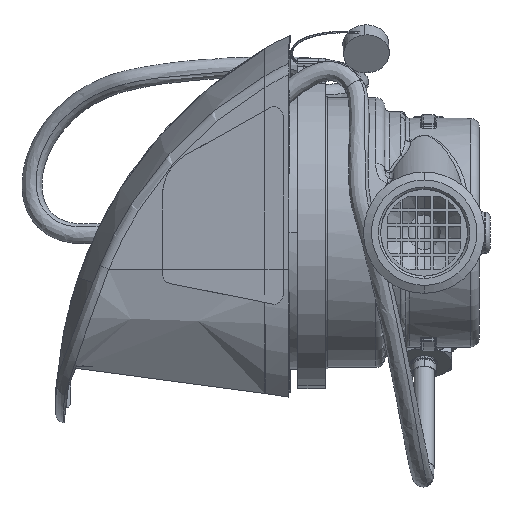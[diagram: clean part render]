
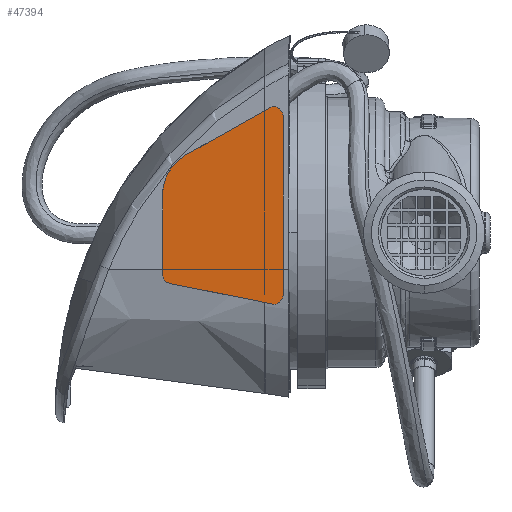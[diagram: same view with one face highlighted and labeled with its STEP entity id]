
A CAD part, left-side view. The second image highlights one B-rep face of the part: STEP entity #47394.
In plain terms, the highlighted planar face has unit normal (-0.995, 0.104, 0).
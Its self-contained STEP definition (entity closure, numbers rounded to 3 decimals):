
#1272 = ORIENTED_EDGE ( 'NONE', *, *, #8260, .T. ) ;
#2750 = VERTEX_POINT ( 'NONE', #102383 ) ;
#8260 = EDGE_CURVE ( 'NONE', #104310, #88742, #82116, .T. ) ;
#9892 = VECTOR ( 'NONE', #97397, 1000. ) ;
#9898 = EDGE_CURVE ( 'NONE', #2750, #104310, #32154, .T. ) ;
#10843 = DIRECTION ( 'NONE',  ( 0., 0., -1. ) ) ;
#10998 = CARTESIAN_POINT ( 'NONE',  ( -38.681, 45.245, 25.516 ) ) ;
#11545 = DIRECTION ( 'NONE',  ( 0.091, 0.868, -0.488 ) ) ;
#12533 = DIRECTION ( 'NONE',  ( -0.995, 0.105, 0. ) ) ;
#18060 = DIRECTION ( 'NONE',  ( 0., 0., 1. ) ) ;
#18153 = VERTEX_POINT ( 'NONE', #35268 ) ;
#23352 = CARTESIAN_POINT ( 'NONE',  ( -36.45, 66.48, 16.988 ) ) ;
#30218 = CARTESIAN_POINT ( 'NONE',  ( -38.681, 45.245, -13.633 ) ) ;
#31233 = ORIENTED_EDGE ( 'NONE', *, *, #101580, .T. ) ;
#32154 = CIRCLE ( 'NONE', #165816, 2. ) ;
#35268 = CARTESIAN_POINT ( 'NONE',  ( -38.37, 48.205, 27.262 ) ) ;
#36185 = CARTESIAN_POINT ( 'NONE',  ( -38.472, 47.234, -15.633 ) ) ;
#36423 = CARTESIAN_POINT ( 'NONE',  ( -35.914, 71.572, 8.26 ) ) ;
#40785 = CARTESIAN_POINT ( 'NONE',  ( -38.472, 47.234, -13.633 ) ) ;
#45521 = LINE ( 'NONE', #30218, #72107 ) ;
#46754 = DIRECTION ( 'NONE',  ( 0., 0., 1. ) ) ;
#47394 = ADVANCED_FACE ( 'NONE', ( #134733 ), #109888, .T. ) ;
#49350 = ORIENTED_EDGE ( 'NONE', *, *, #119245, .T. ) ;
#52650 = ORIENTED_EDGE ( 'NONE', *, *, #106907, .T. ) ;
#53791 = AXIS2_PLACEMENT_3D ( 'NONE', #115104, #90323, #155333 ) ;
#55557 = CARTESIAN_POINT ( 'NONE',  ( -36.123, 69.583, -9.122 ) ) ;
#57314 = AXIS2_PLACEMENT_3D ( 'NONE', #101254, #12533, #10843 ) ;
#57656 = VECTOR ( 'NONE', #11545, 1000. ) ;
#65395 = ORIENTED_EDGE ( 'NONE', *, *, #150837, .T. ) ;
#67770 = CARTESIAN_POINT ( 'NONE',  ( -38.472, 47.234, 25.516 ) ) ;
#68464 = CARTESIAN_POINT ( 'NONE',  ( -36.082, 69.975, -11.083 ) ) ;
#68813 = ORIENTED_EDGE ( 'NONE', *, *, #127121, .T. ) ;
#69694 = EDGE_CURVE ( 'NONE', #125085, #2750, #126617, .T. ) ;
#72107 = VECTOR ( 'NONE', #83912, 1000. ) ;
#74619 = CARTESIAN_POINT ( 'NONE',  ( -35.914, 71.572, -9.122 ) ) ;
#82116 = LINE ( 'NONE', #68464, #9892 ) ;
#82905 = DIRECTION ( 'NONE',  ( -0.995, 0.105, 0. ) ) ;
#83912 = DIRECTION ( 'NONE',  ( 0., 0., 1. ) ) ;
#85052 = EDGE_LOOP ( 'NONE', ( #139008, #151796, #140799, #1272, #52650, #49350, #31233, #65395, #68813 ) ) ;
#87209 = AXIS2_PLACEMENT_3D ( 'NONE', #40785, #91952, #94495 ) ;
#87347 = DIRECTION ( 'NONE',  ( 0., 0., -1. ) ) ;
#88742 = VERTEX_POINT ( 'NONE', #138600 ) ;
#90323 = DIRECTION ( 'NONE',  ( -0.995, 0.105, 0. ) ) ;
#91131 = CARTESIAN_POINT ( 'NONE',  ( -36.082, 69.975, -11.083 ) ) ;
#91952 = DIRECTION ( 'NONE',  ( -0.995, 0.105, 0. ) ) ;
#93373 = DIRECTION ( 'NONE',  ( 0., 0., 1. ) ) ;
#94495 = DIRECTION ( 'NONE',  ( 0., 0., -1. ) ) ;
#97397 = DIRECTION ( 'NONE',  ( -0.102, -0.975, -0.197 ) ) ;
#97914 = AXIS2_PLACEMENT_3D ( 'NONE', #67770, #133471, #93373 ) ;
#98335 = AXIS2_PLACEMENT_3D ( 'NONE', #162969, #136419, #46754 ) ;
#101254 = CARTESIAN_POINT ( 'NONE',  ( -38.472, 47.234, -13.633 ) ) ;
#101580 = EDGE_CURVE ( 'NONE', #114272, #104322, #45521, .T. ) ;
#102383 = CARTESIAN_POINT ( 'NONE',  ( -35.914, 71.572, -9.122 ) ) ;
#104310 = VERTEX_POINT ( 'NONE', #91131 ) ;
#104322 = VERTEX_POINT ( 'NONE', #10998 ) ;
#106907 = EDGE_CURVE ( 'NONE', #88742, #132043, #136461, .T. ) ;
#106978 = VECTOR ( 'NONE', #87347, 1000. ) ;
#109888 = PLANE ( 'NONE',  #98335 ) ;
#114272 = VERTEX_POINT ( 'NONE', #158266 ) ;
#115104 = CARTESIAN_POINT ( 'NONE',  ( -36.96, 61.627, 8.26 ) ) ;
#117202 = CIRCLE ( 'NONE', #87209, 2. ) ;
#119245 = EDGE_CURVE ( 'NONE', #132043, #114272, #117202, .T. ) ;
#123249 = VERTEX_POINT ( 'NONE', #23352 ) ;
#124838 = EDGE_CURVE ( 'NONE', #123249, #125085, #165641, .T. ) ;
#125085 = VERTEX_POINT ( 'NONE', #36423 ) ;
#126617 = LINE ( 'NONE', #74619, #106978 ) ;
#127121 = EDGE_CURVE ( 'NONE', #18153, #123249, #141249, .T. ) ;
#132043 = VERTEX_POINT ( 'NONE', #36185 ) ;
#133471 = DIRECTION ( 'NONE',  ( -0.995, 0.105, 0. ) ) ;
#134733 = FACE_OUTER_BOUND ( 'NONE', #85052, .T. ) ;
#136419 = DIRECTION ( 'NONE',  ( -0.995, 0.105, 0. ) ) ;
#136461 = CIRCLE ( 'NONE', #57314, 2. ) ;
#138600 = CARTESIAN_POINT ( 'NONE',  ( -38.431, 47.626, -15.594 ) ) ;
#139008 = ORIENTED_EDGE ( 'NONE', *, *, #124838, .T. ) ;
#140799 = ORIENTED_EDGE ( 'NONE', *, *, #9898, .T. ) ;
#141249 = LINE ( 'NONE', #157511, #57656 ) ;
#147140 = CIRCLE ( 'NONE', #97914, 2. ) ;
#150837 = EDGE_CURVE ( 'NONE', #104322, #18153, #147140, .T. ) ;
#151796 = ORIENTED_EDGE ( 'NONE', *, *, #69694, .T. ) ;
#155333 = DIRECTION ( 'NONE',  ( 0., 0., 1. ) ) ;
#157511 = CARTESIAN_POINT ( 'NONE',  ( -36.45, 66.48, 16.988 ) ) ;
#158266 = CARTESIAN_POINT ( 'NONE',  ( -38.681, 45.245, -13.633 ) ) ;
#162969 = CARTESIAN_POINT ( 'NONE',  ( -36.96, 61.627, 8.26 ) ) ;
#165641 = CIRCLE ( 'NONE', #53791, 10. ) ;
#165816 = AXIS2_PLACEMENT_3D ( 'NONE', #55557, #82905, #18060 ) ;
